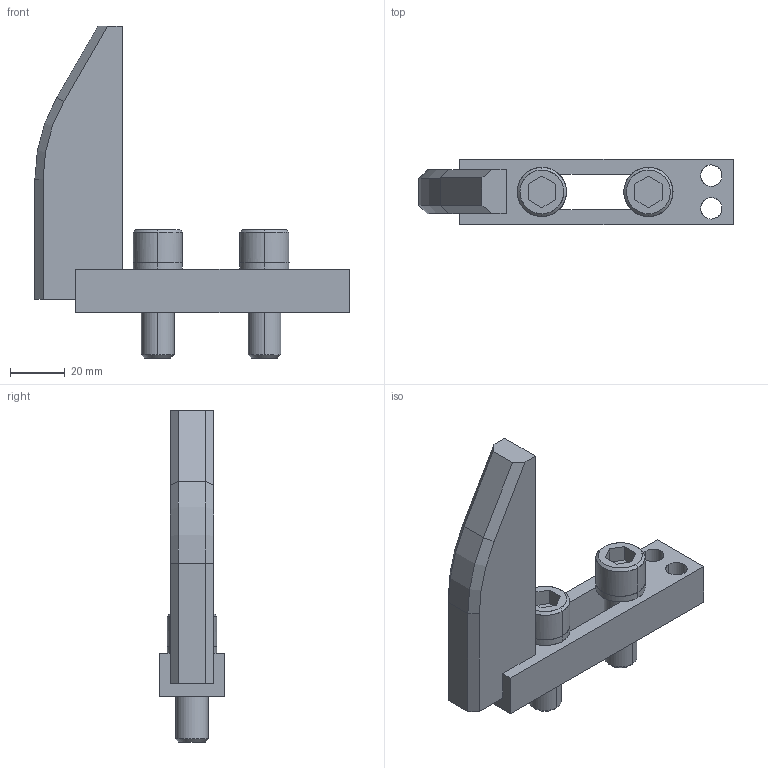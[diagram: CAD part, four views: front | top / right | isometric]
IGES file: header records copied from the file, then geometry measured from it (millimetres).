
Global section: file name: E:\UnigraphicsGraphicData\MISUMI_PRESS-PARTS\IGES\3d_ngnba-105-40-m12_01524_r00.igs; native system: NX V5.0; preprocessor: UGS NX IGES V5.0; author: MISUMI; date: 20110105.162045; units: millimetre
Bounding box: 115 x 24 x 121.5 mm (x, y, z)
Surface area: 26074.3 mm2 (no closed solid volume)
Topology: 0 solids, 0 shells, 100 faces, 630 edges, 630 vertices
Faces by surface type: bspline 100
